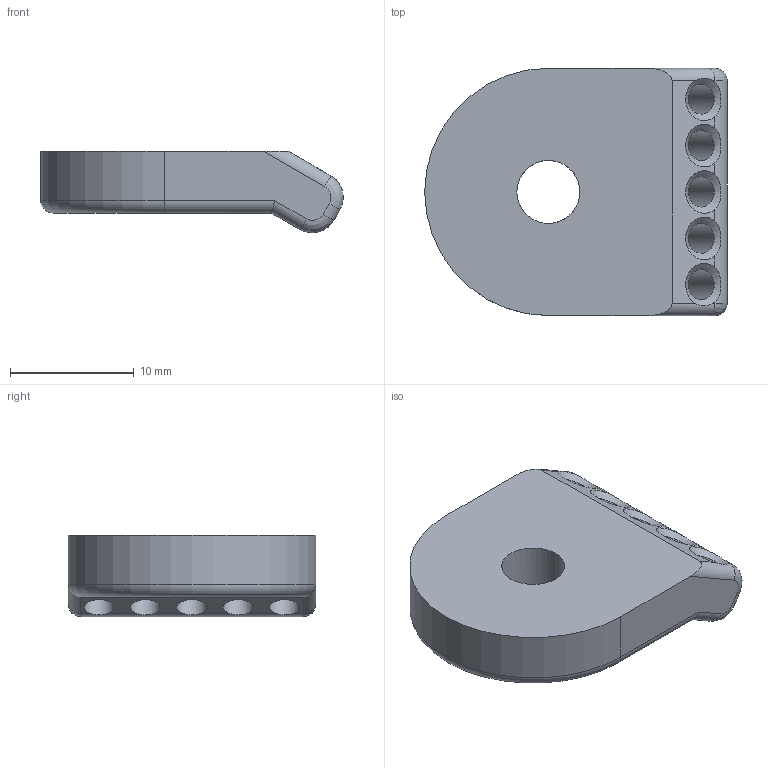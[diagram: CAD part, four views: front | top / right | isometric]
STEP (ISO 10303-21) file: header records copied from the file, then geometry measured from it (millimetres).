
FILE_DESCRIPTION(/* description */ (''),/* implementation_level */ '2;1');
FILE_NAME(/* name */ 'C:/Users/Ben/Desktop/front optic panel v2.step',/* time_stamp */ '2019-07-27T18:12:03+03:00',/* author */ (''),/* organization */ (''),/* preprocessor_version */ 'ST-DEVELOPER v18',/* originating_system */ 'Autodesk Translation Framework v8.2.0.1029',/* authorisation */ '');
FILE_SCHEMA (('AUTOMOTIVE_DESIGN { 1 0 10303 214 3 1 1 }'));
Length unit declared in the file: millimetre
Products named in the file (1): front optic panel
Bounding box: 24.46 x 20 x 6.6 mm (x, y, z)
Volume: 1975.6 mm3; surface area: 1406.8 mm2
Topology: 1 solids, 1 shells, 36 faces, 116 edges, 72 vertices
Faces by surface type: cylinder 17, plane 9, cone 5, bspline 4, torus 1
Full cylindrical faces by diameter (mm): 2.45 x5, 5.1 x1
Entity records: 1454 total; most frequent: CARTESIAN_POINT 386, ORIENTED_EDGE 232, DIRECTION 225, EDGE_CURVE 116, AXIS2_PLACEMENT_3D 88, VERTEX_POINT 72, CIRCLE 51, LINE 49
